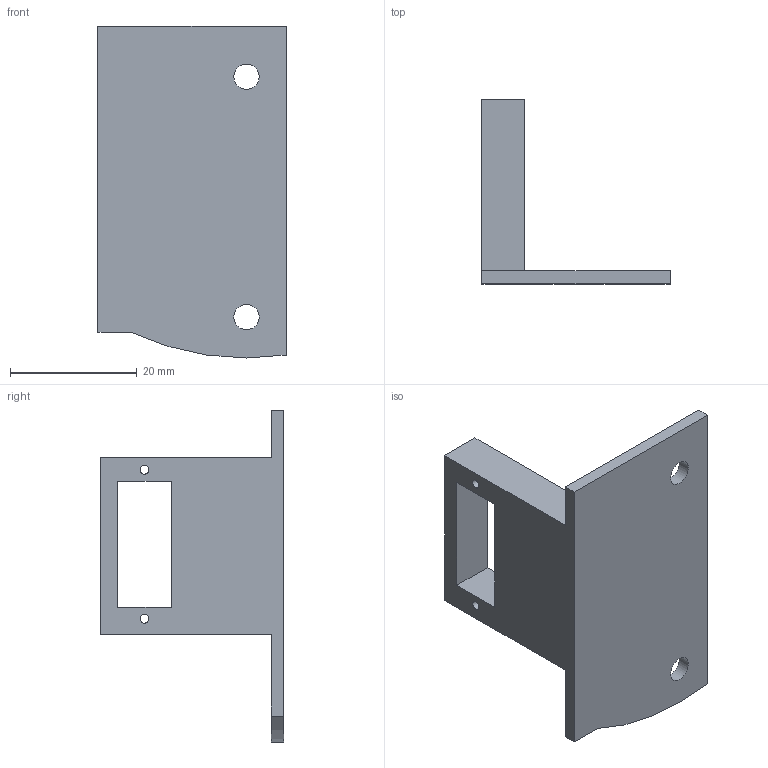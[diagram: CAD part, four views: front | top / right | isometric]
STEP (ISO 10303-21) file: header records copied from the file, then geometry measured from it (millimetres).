
FILE_DESCRIPTION(/* description */ (''),/* implementation_level */ '2;1');
FILE_NAME(/* name */ '/Users/simonhu/OneDrive - FH JOANNEUM/5Semsester/Projekt/3D/turret_final/servo_bracket.step',/* time_stamp */ '2022-01-27T19:28:27+01:00',/* author */ (''),/* organization */ (''),/* preprocessor_version */ 'ST-DEVELOPER v18.1',/* originating_system */ 'Autodesk Translation Framework v10.13.0.1454',/* authorisation */ '');
FILE_SCHEMA (('AUTOMOTIVE_DESIGN { 1 0 10303 214 3 1 1 }'));
Length unit declared in the file: millimetre
Products named in the file (1): servo_arm_kopie
Bounding box: 29.7 x 29 x 52.4 mm (x, y, z)
Volume: 6938.8 mm3; surface area: 5320.7 mm2
Topology: 1 solids, 1 shells, 19 faces, 51 edges, 34 vertices
Faces by surface type: plane 14, cylinder 5
Full cylindrical faces by diameter (mm): 1.4 x2, 4 x2
Entity records: 655 total; most frequent: CARTESIAN_POINT 105, ORIENTED_EDGE 102, DIRECTION 101, EDGE_CURVE 51, LINE 41, VECTOR 41, VERTEX_POINT 34, AXIS2_PLACEMENT_3D 30
